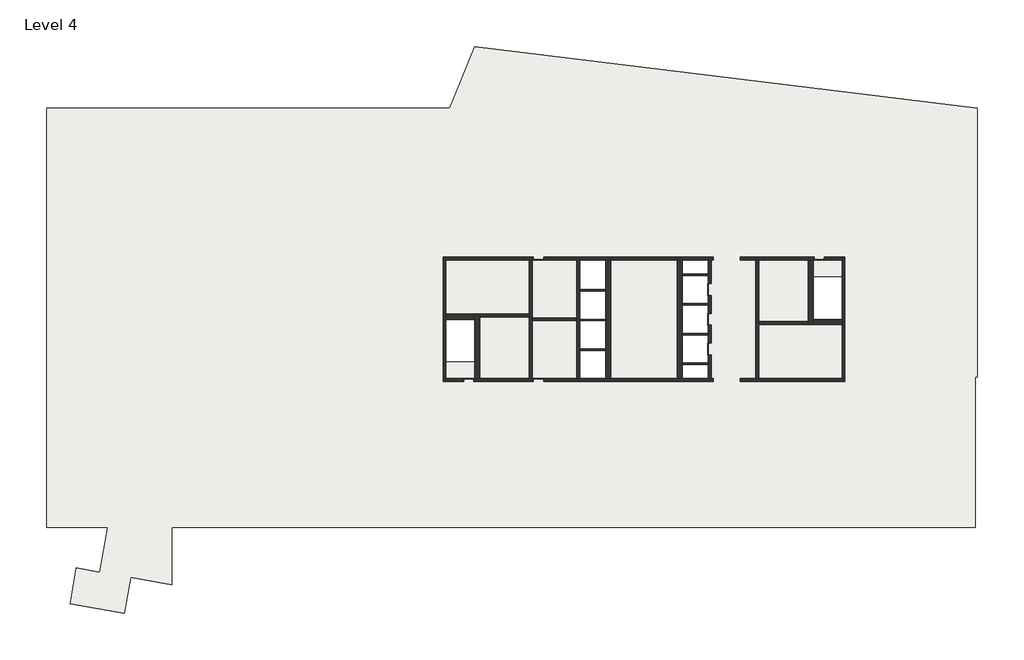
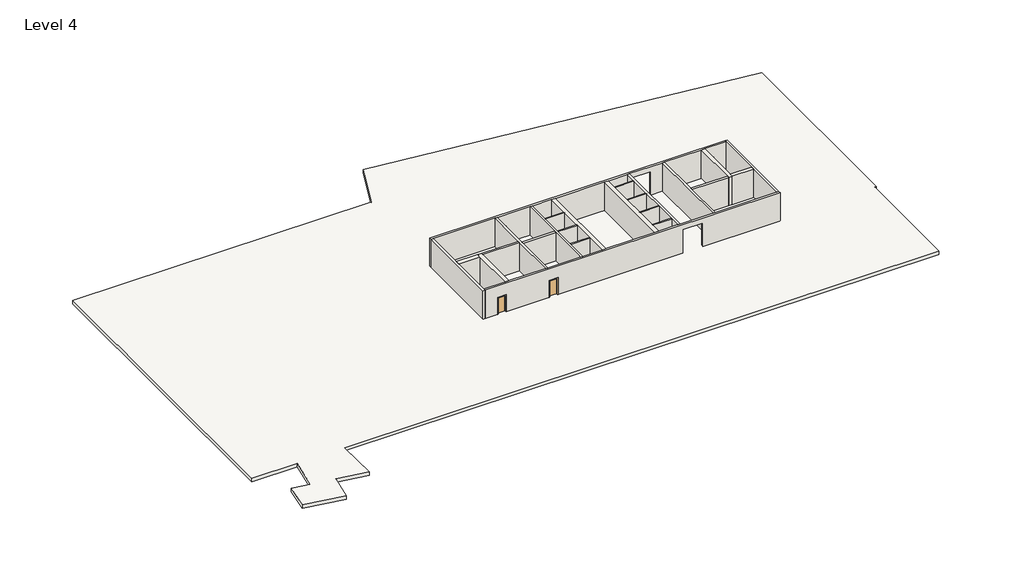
# One storey: 24 walls, 4 doors, 3 proxies, 1 slab.
"""IFC4 building model written with IfcOpenShell, lengths in millimetres."""

from ifc_helpers import new_model, si_unit, frame, origin, place, context, project, spatial, polyline, outline, extrude, faceted_brep, transform, mapped, element, save
from components import proxy_7fed659c, door_ec010f1f, door_9d8f1ff2

model = new_model("IFC4")

# Units and contexts
model_context = context("Model", 3, world=origin())
ifc_project = project(units=[si_unit("LENGTHUNIT", "METRE", prefix="MILLI")], contexts=[model_context])

# Site, building, storey
site = spatial("IfcSite", under=ifc_project)
building = spatial("IfcBuilding", under=site)
storey = spatial("IfcBuildingStorey", under=building, Name="Level 4", Elevation=10972.8)

# Proxies
placement = place(None, origin())
proxy_shape = proxy_7fed659c(model_context)
element("IfcBuildingElementProxy", 1, Name="Elevator%20Door-Center[1] : 42\" x 84\"", ObjectType="Elevator%20Door-Center[1] : 42\" x 84\"", at=placement, inside=storey, context=model_context, shape_type="MappedRepresentation", body=[
    mapped(proxy_shape, transform((-9030.2427926, -6266.0747049, 10972.8), x_axis=(0.0, 1.0, 0.0), y_axis=(-1.0, 0.0, 0.0), z_axis=(0.0, 0.0, 1.0))),
])
element("IfcBuildingElementProxy", 2, Name="Elevator%20Door-Center[1] : 42\" x 84\"", ObjectType="Elevator%20Door-Center[1] : 42\" x 84\"", at=placement, inside=storey, context=model_context, shape_type="MappedRepresentation", body=[
    mapped(proxy_shape, transform((-9030.2427926, -8933.0747049, 10972.8), x_axis=(0.0, 1.0, 0.0), y_axis=(-1.0, 0.0, 0.0), z_axis=(0.0, 0.0, 1.0))),
])
element("IfcBuildingElementProxy", 3, Name="Elevator%20Door-Center[1] : 42\" x 84\"", ObjectType="Elevator%20Door-Center[1] : 42\" x 84\"", at=placement, inside=storey, context=model_context, shape_type="MappedRepresentation", body=[
    mapped(proxy_shape, transform((-9030.2427926, -11600.0747049, 10972.8), x_axis=(0.0, 1.0, 0.0), y_axis=(-1.0, 0.0, 0.0), z_axis=(0.0, 0.0, 1.0))),
])

# Doors
door_shape = door_ec010f1f(model_context)
element("IfcDoor", 4, ObjectType="Single-Flush : 36\" x 84\"", at=placement, inside=storey, context=model_context, shape_type="MappedRepresentation", body=[
    mapped(door_shape, transform((-30700.0713641, -14493.2103492, 10972.8), x_axis=(1.0, 0.0, 0.0), y_axis=(0.0, 1.0, 0.0), z_axis=(0.0, 0.0, 1.0))),
])
element("IfcDoor", 5, ObjectType="Single-Flush : 36\" x 84\"", at=placement, inside=storey, context=model_context, shape_type="MappedRepresentation", body=[
    mapped(door_shape, transform((817.7000645, -3571.2103492, 10972.8), x_axis=(-1.0, 0.0, 0.0), y_axis=(0.0, -1.0, 0.0), z_axis=(0.0, 0.0, 1.0))),
])
element("IfcDoor", 6, ObjectType="Single-Flush : 36\" x 84\"", at=placement, inside=storey, context=model_context, shape_type="MappedRepresentation", body=[
    mapped(door_shape, transform((-24433.5285069, -3571.2103492, 10972.8), x_axis=(-1.0, 0.0, 0.0), y_axis=(0.0, -1.0, 0.0), z_axis=(0.0, 0.0, 1.0))),
])
door_2_shape = door_9d8f1ff2(model_context)
element("IfcDoor", 7, ObjectType="Single-Flush : 36\" x 84\"", at=placement, inside=storey, context=model_context, shape_type="MappedRepresentation", body=[
    mapped(door_2_shape, transform((-24433.5285069, -14493.2103492, 10972.8), x_axis=(-1.0, 0.0, 0.0), y_axis=(0.0, -1.0, 0.0), z_axis=(0.0, 0.0, 1.0))),
])

# Slab
element("IfcSlab", 8, ObjectType="Steel Bar Joist 14\" - Concrete", at=placement, inside=storey, context=model_context, shape_type="SweptSolid", body=[
    extrude(outline(polyline([(-68660.7599961, -27742.4853492), (-68660.7599961, 9954.2896508), (-32421.4843139, 9954.2896508), (-30175.817983, 15512.5088637), (15043.3054088, 9960.2986536), (15043.3054088, -14218.4266737), (14830.5804088, -14218.4266737), (14830.5804088, -27735.220667), (-57415.8125003, -27735.220667), (-57415.8125003, -32919.911766), (-61087.9334678, -32272.417763), (-61658.0117526, -35505.4923758), (-66551.3983764, -34642.656287), (-65981.3200915, -31409.5816742), (-63880.1342697, -31780.0774261), (-63168.1978494, -27742.4853492), (-68660.7599961, -27742.4853492)]), holes=[polyline([(-32750.2142212, -9032.2103492), (-32750.2142212, -12842.2103492), (-30166.6713641, -12842.2103492), (-30166.6713641, -9032.2103492), (-32750.2142212, -9032.2103492)]), polyline([(-20725.1285069, -3698.2103492), (-20725.1285069, -14366.2103492), (-18385.1284437, -14366.2103492), (-18385.1284437, -3698.2103492), (-20725.1285069, -3698.2103492)]), polyline([(-9157.2427926, -3698.2103492), (-11497.2428559, -3698.2103492), (-11497.2428559, -14366.2103492), (-9157.2427926, -14366.2103492), (-9157.2427926, -3698.2103492)]), polyline([(2867.8429217, -9032.2103492), (2867.8429217, -5222.2103492), (284.3000645, -5222.2103492), (284.3000645, -9032.2103492), (2867.8429217, -9032.2103492)])]), frame((0.0, 0.0, 10537.825), z_axis=(0.0, 0.0, 1.0), x_axis=(1.0, 0.0, 0.0)), (0.0, 0.0, 1.0), 434.975),
])

# Walls
element("IfcWall", 9, ObjectType="Core-shaft 10\" Concrete", at=placement, inside=storey, context=model_context, shape_type="Brep", body=[
    faceted_brep([(-24890.7285069, -14366.2103492, 13106.4), (-24890.7285069, -14366.2103492, 10972.8), (-24992.3285069, -14366.2103492, 10972.8), (-25246.3285069, -14366.2103492, 10972.8), (-29709.4713641, -14366.2103492, 10972.8), (-30166.6713641, -14366.2103492, 10972.8), (-30242.8713641, -14366.2103492, 10972.8), (-30242.8713641, -14366.2103492, 13106.4), (-31157.2713641, -14366.2103492, 13106.4), (-31157.2713641, -14366.2103492, 10972.8), (-32750.2142212, -14366.2103492, 10972.8), (-32750.2142212, -14366.2103492, 14630.4), (-30166.6713641, -14366.2103492, 14630.4), (-29709.4713641, -14366.2103492, 14630.4), (-25246.3285069, -14366.2103492, 14630.4), (-24992.3285069, -14366.2103492, 14630.4), (-20979.1285069, -14366.2103492, 14630.4), (-20725.1285069, -14366.2103492, 14630.4), (-18385.1284437, -14366.2103492, 14630.4), (-17927.9284437, -14366.2103492, 14630.4), (-11954.4428559, -14366.2103492, 14630.4), (-11497.2428559, -14366.2103492, 14630.4), (-9157.2427926, -14366.2103492, 14630.4), (-8903.2427926, -14366.2103492, 14630.4), (-4890.0427926, -14366.2103492, 14630.4), (-4636.0427926, -14366.2103492, 14630.4), (2867.8429217, -14366.2103492, 14630.4), (3121.8429217, -14366.2103492, 14630.4), (3121.8429217, -14366.2103492, 10972.8), (2867.8429217, -14366.2103492, 10972.8), (-4636.0427926, -14366.2103492, 10972.8), (-4890.0427926, -14366.2103492, 10972.8), (-6276.1570783, -14366.2103492, 10972.8), (-6276.1570783, -14366.2103492, 14020.8), (-8714.5570783, -14366.2103492, 14020.8), (-8714.5570783, -14366.2103492, 10972.8), (-8903.2427926, -14366.2103492, 10972.8), (-9157.2427926, -14366.2103492, 10972.8), (-11497.2428559, -14366.2103492, 10972.8), (-11954.4428559, -14366.2103492, 10972.8), (-17927.9284437, -14366.2103492, 10972.8), (-18385.1284437, -14366.2103492, 10972.8), (-20725.1285069, -14366.2103492, 10972.8), (-20979.1285069, -14366.2103492, 10972.8), (-23976.3285069, -14366.2103492, 10972.8), (-23976.3285069, -14366.2103492, 13106.4), (-30242.8713641, -14620.2103492, 10972.8), (-24890.7285069, -14620.2103492, 10972.8), (-24890.7285069, -14620.2103492, 13106.4), (-23976.3285069, -14620.2103492, 13106.4), (-23976.3285069, -14620.2103492, 10972.8), (-8714.5570783, -14620.2103492, 10972.8), (-8714.5570783, -14620.2103492, 14020.8), (-6276.1570783, -14620.2103492, 14020.8), (-6276.1570783, -14620.2103492, 10972.8), (3121.8429217, -14620.2103492, 10972.8), (3121.8429217, -14620.2103492, 14630.4), (-32750.2142212, -14620.2103492, 14630.4), (-32750.2142212, -14620.2103492, 10972.8), (-31157.2713641, -14620.2103492, 10972.8), (-31157.2713641, -14620.2103492, 13106.4), (-30242.8713641, -14620.2103492, 13106.4)], [[[0, 1, 2, 3, 4, 5, 6, 7, 8, 9, 10, 11, 12, 13, 14, 15, 16, 17, 18, 19, 20, 21, 22, 23, 24, 25, 26, 27, 28, 29, 30, 31, 32, 33, 34, 35, 36, 37, 38, 39, 40, 41, 42, 43, 44, 45]], [[46, 47, 48, 49, 50, 51, 52, 53, 54, 55, 56, 57, 58, 59, 60, 61]], [[28, 55, 54, 32, 31, 30, 29]], [[59, 58, 10, 9]], [[44, 43, 42, 41, 40, 39, 38, 37, 36, 35, 51, 50]], [[6, 5, 4, 3, 2, 1, 47, 46]], [[27, 26, 25, 24, 23, 22, 21, 20, 19, 18, 17, 16, 15, 14, 13, 12, 11, 57, 56]], [[7, 6, 46, 61]], [[8, 7, 61, 60]], [[9, 8, 60, 59]], [[33, 53, 52, 34]], [[53, 33, 32, 54]], [[34, 52, 51, 35]], [[28, 27, 56, 55]], [[11, 10, 58, 57]], [[48, 47, 1, 0]], [[49, 48, 0, 45]], [[50, 49, 45, 44]]]),
])
element("IfcWall", 10, ObjectType="Core-shaft 10\" Concrete", at=placement, inside=storey, context=model_context, shape_type="Brep", body=[
    faceted_brep([(2867.8429217, -3444.2103492, 10972.8), (2867.8429217, -3698.2103492, 10972.8), (2867.8429217, -9032.2103492, 10972.8), (2867.8429217, -9489.4103492, 10972.8), (2867.8429217, -14366.2103492, 10972.8), (2867.8429217, -14366.2103492, 14630.4), (2867.8429217, -9489.4103492, 14630.4), (2867.8429217, -9032.2103492, 14630.4), (2867.8429217, -3698.2103492, 14630.4), (2867.8429217, -3444.2103492, 14630.4), (3121.8429217, -3444.2103492, 10972.8), (3121.8429217, -3444.2103492, 14630.4), (3121.8429217, -14366.2103492, 14630.4), (3121.8429217, -14366.2103492, 10972.8)], [[[0, 1, 2, 3, 4, 5, 6, 7, 8, 9]], [[10, 11, 12, 13]], [[4, 3, 2, 1, 0, 10, 13]], [[9, 8, 7, 6, 5, 12, 11]], [[0, 9, 11, 10]], [[5, 4, 13, 12]]]),
])
element("IfcWall", 11, ObjectType="Core-shaft 10\" Concrete", at=placement, inside=storey, context=model_context, shape_type="Brep", body=[
    faceted_brep([(-33004.2142212, -3698.2103492, 10972.8), (-32750.2142212, -3698.2103492, 10972.8), (-25246.3285069, -3698.2103492, 10972.8), (-24992.3285069, -3698.2103492, 10972.8), (-24890.7285069, -3698.2103492, 10972.8), (-24890.7285069, -3698.2103492, 13106.4), (-23976.3285069, -3698.2103492, 13106.4), (-23976.3285069, -3698.2103492, 10972.8), (-20979.1285069, -3698.2103492, 10972.8), (-20725.1285069, -3698.2103492, 10972.8), (-18385.1284437, -3698.2103492, 10972.8), (-17927.9284437, -3698.2103492, 10972.8), (-11954.4428559, -3698.2103492, 10972.8), (-11497.2428559, -3698.2103492, 10972.8), (-9157.2427926, -3698.2103492, 10972.8), (-8903.2427926, -3698.2103492, 10972.8), (-8714.5570783, -3698.2103492, 10972.8), (-8714.5570783, -3698.2103492, 14020.8), (-6276.1570783, -3698.2103492, 14020.8), (-6276.1570783, -3698.2103492, 10972.8), (-4890.0427926, -3698.2103492, 10972.8), (-4636.0427926, -3698.2103492, 10972.8), (-172.8999355, -3698.2103492, 10972.8), (284.3000645, -3698.2103492, 10972.8), (360.5000645, -3698.2103492, 10972.8), (360.5000645, -3698.2103492, 13106.4), (1274.9000645, -3698.2103492, 13106.4), (1274.9000645, -3698.2103492, 10972.8), (2867.8429217, -3698.2103492, 10972.8), (2867.8429217, -3698.2103492, 14630.4), (284.3000645, -3698.2103492, 14630.4), (-172.8999355, -3698.2103492, 14630.4), (-4636.0427926, -3698.2103492, 14630.4), (-4890.0427926, -3698.2103492, 14630.4), (-8903.2427926, -3698.2103492, 14630.4), (-9157.2427926, -3698.2103492, 14630.4), (-11497.2428559, -3698.2103492, 14630.4), (-11954.4428559, -3698.2103492, 14630.4), (-17927.9284437, -3698.2103492, 14630.4), (-18385.1284437, -3698.2103492, 14630.4), (-20725.1285069, -3698.2103492, 14630.4), (-20979.1285069, -3698.2103492, 14630.4), (-24992.3285069, -3698.2103492, 14630.4), (-25246.3285069, -3698.2103492, 14630.4), (-32750.2142212, -3698.2103492, 14630.4), (-33004.2142212, -3698.2103492, 14630.4), (-24890.7285069, -3444.2103492, 13106.4), (-24890.7285069, -3444.2103492, 10972.8), (-33004.2142212, -3444.2103492, 10972.8), (-33004.2142212, -3444.2103492, 14630.4), (2867.8429217, -3444.2103492, 14630.4), (2867.8429217, -3444.2103492, 10972.8), (1274.9000645, -3444.2103492, 10972.8), (1274.9000645, -3444.2103492, 13106.4), (360.5000645, -3444.2103492, 13106.4), (360.5000645, -3444.2103492, 10972.8), (-6276.1570783, -3444.2103492, 10972.8), (-6276.1570783, -3444.2103492, 14020.8), (-8714.5570783, -3444.2103492, 14020.8), (-8714.5570783, -3444.2103492, 10972.8), (-23976.3285069, -3444.2103492, 10972.8), (-23976.3285069, -3444.2103492, 13106.4)], [[[0, 1, 2, 3, 4, 5, 6, 7, 8, 9, 10, 11, 12, 13, 14, 15, 16, 17, 18, 19, 20, 21, 22, 23, 24, 25, 26, 27, 28, 29, 30, 31, 32, 33, 34, 35, 36, 37, 38, 39, 40, 41, 42, 43, 44, 45]], [[46, 47, 48, 49, 50, 51, 52, 53, 54, 55, 56, 57, 58, 59, 60, 61]], [[52, 51, 28, 27]], [[56, 55, 24, 23, 22, 21, 20, 19]], [[60, 59, 16, 15, 14, 13, 12, 11, 10, 9, 8, 7]], [[48, 47, 4, 3, 2, 1, 0]], [[45, 44, 43, 42, 41, 40, 39, 38, 37, 36, 35, 34, 33, 32, 31, 30, 29, 50, 49]], [[17, 58, 57, 18]], [[58, 17, 16, 59]], [[18, 57, 56, 19]], [[25, 24, 55, 54]], [[26, 25, 54, 53]], [[27, 26, 53, 52]], [[0, 45, 49, 48]], [[29, 28, 51, 50]], [[5, 4, 47, 46]], [[6, 5, 46, 61]], [[7, 6, 61, 60]]]),
])
element("IfcWall", 12, ObjectType="Core-shaft 10\" Concrete", at=placement, inside=storey, context=model_context, shape_type="Brep", body=[
    faceted_brep([(-32750.2142212, -14620.2103492, 10972.8), (-32750.2142212, -14366.2103492, 10972.8), (-32750.2142212, -9032.2103492, 10972.8), (-32750.2142212, -8575.0103492, 10972.8), (-32750.2142212, -3698.2103492, 10972.8), (-32750.2142212, -3698.2103492, 14630.4), (-32750.2142212, -8575.0103492, 14630.4), (-32750.2142212, -9032.2103492, 14630.4), (-32750.2142212, -14366.2103492, 14630.4), (-32750.2142212, -14620.2103492, 14630.4), (-33004.2142212, -14620.2103492, 10972.8), (-33004.2142212, -14620.2103492, 14630.4), (-33004.2142212, -3698.2103492, 14630.4), (-33004.2142212, -3698.2103492, 10972.8)], [[[0, 1, 2, 3, 4, 5, 6, 7, 8, 9]], [[10, 11, 12, 13]], [[4, 3, 2, 1, 0, 10, 13]], [[9, 8, 7, 6, 5, 12, 11]], [[0, 9, 11, 10]], [[5, 4, 13, 12]]]),
])
element("IfcWall", 13, ObjectType="Core-shaft 10\" Concrete", at=placement, inside=storey, context=model_context, shape_type="SweptSolid", body=[
    extrude(outline(polyline([(-20725.1285069, -3698.2103492), (-20725.1285069, -14366.2103492), (-20979.1285069, -14366.2103492), (-20979.1285069, -3698.2103492), (-20725.1285069, -3698.2103492)])), frame((0.0, 0.0, 10972.8), z_axis=(0.0, 0.0, 1.0), x_axis=(1.0, 0.0, 0.0)), (0.0, 0.0, 1.0), 3657.6),
])
element("IfcWall", 14, ObjectType="Core-shaft 10\" Concrete", at=placement, inside=storey, context=model_context, shape_type="Brep", body=[
    faceted_brep([(-24992.3285069, -14366.2103492, 10972.8), (-24992.3285069, -3698.2103492, 10972.8), (-24992.3285069, -3698.2103492, 14630.4), (-24992.3285069, -14366.2103492, 14630.4), (-25246.3285069, -14366.2103492, 10972.8), (-25246.3285069, -14366.2103492, 14630.4), (-25246.3285069, -8829.0103492, 14630.4), (-25246.3285069, -8575.0103492, 14630.4), (-25246.3285069, -3698.2103492, 14630.4), (-25246.3285069, -3698.2103492, 10972.8), (-25246.3285069, -8575.0103492, 10972.8), (-25246.3285069, -8829.0103492, 10972.8)], [[[0, 1, 2, 3]], [[4, 5, 6, 7, 8, 9, 10, 11]], [[1, 0, 4, 11, 10, 9]], [[3, 2, 8, 7, 6, 5]], [[2, 1, 9, 8]], [[0, 3, 5, 4]]]),
])
element("IfcWall", 15, ObjectType="Core-shaft 10\" Concrete", at=placement, inside=storey, context=model_context, shape_type="SweptSolid", body=[
    extrude(outline(polyline([(-25246.3285069, -8829.0103492), (-29709.4713641, -8829.0103492), (-29709.4713641, -8575.0103492), (-25246.3285069, -8575.0103492), (-25246.3285069, -8829.0103492)])), frame((0.0, 0.0, 10972.8), z_axis=(0.0, 0.0, 1.0), x_axis=(1.0, 0.0, 0.0)), (0.0, 0.0, 1.0), 3657.6),
])
element("IfcWall", 16, ObjectType="Core-shaft 10\" Concrete", at=placement, inside=storey, context=model_context, shape_type="SweptSolid", body=[
    extrude(outline(polyline([(-14366.2103492, 14630.4), (-3698.2103492, 14630.4), (-3698.2103492, 10972.8), (-5825.4603492, 10972.8), (-5825.4603492, 13131.8), (-6904.9603492, 13131.8), (-6904.9603492, 10972.8), (-8492.4603492, 10972.8), (-8492.4603492, 13131.8), (-9571.9603492, 13131.8), (-9571.9603492, 10972.8), (-11159.4603492, 10972.8), (-11159.4603492, 13131.8), (-12238.9603492, 13131.8), (-12238.9603492, 10972.8), (-14366.2103492, 10972.8), (-14366.2103492, 14630.4)])), frame((-9157.2427926, 0.0, 0.0), z_axis=(1.0, 0.0, 0.0), x_axis=(0.0, 1.0, 0.0)), (0.0, 0.0, 1.0), 254.0),
])
element("IfcWall", 17, ObjectType="Core-shaft 10\" Concrete", at=placement, inside=storey, context=model_context, shape_type="Brep", body=[
    faceted_brep([(-4636.0427926, -14366.2103492, 10972.8), (-4636.0427926, -9489.4103492, 10972.8), (-4636.0427926, -9235.4103492, 10972.8), (-4636.0427926, -3698.2103492, 10972.8), (-4636.0427926, -3698.2103492, 14630.4), (-4636.0427926, -9235.4103492, 14630.4), (-4636.0427926, -9489.4103492, 14630.4), (-4636.0427926, -14366.2103492, 14630.4), (-4890.0427926, -14366.2103492, 10972.8), (-4890.0427926, -14366.2103492, 14630.4), (-4890.0427926, -3698.2103492, 14630.4), (-4890.0427926, -3698.2103492, 10972.8)], [[[0, 1, 2, 3, 4, 5, 6, 7]], [[8, 9, 10, 11]], [[3, 2, 1, 0, 8, 11]], [[7, 6, 5, 4, 10, 9]], [[4, 3, 11, 10]], [[0, 7, 9, 8]]]),
])
element("IfcWall", 18, ObjectType="Core-shaft 10\" Concrete", at=placement, inside=storey, context=model_context, shape_type="SweptSolid", body=[
    extrude(outline(polyline([(-4636.0427926, -9235.4103492), (-172.8999355, -9235.4103492), (-172.8999355, -9489.4103492), (-4636.0427926, -9489.4103492), (-4636.0427926, -9235.4103492)])), frame((0.0, 0.0, 10972.8), z_axis=(0.0, 0.0, 1.0), x_axis=(1.0, 0.0, 0.0)), (0.0, 0.0, 1.0), 3657.6),
])
element("IfcWall", 19, ObjectType="Core-shaft 10\" Concrete", at=placement, inside=storey, context=model_context, shape_type="SweptSolid", body=[
    extrude(outline(polyline([(-20979.1285069, -9159.2103492), (-24992.3285069, -9159.2103492), (-24992.3285069, -8905.2103492), (-20979.1285069, -8905.2103492), (-20979.1285069, -9159.2103492)])), frame((0.0, 0.0, 10972.8), z_axis=(0.0, 0.0, 1.0), x_axis=(1.0, 0.0, 0.0)), (0.0, 0.0, 1.0), 3657.6),
])
element("IfcWall", 20, ObjectType="Core-shaft 18\" Concrete", at=placement, inside=storey, context=model_context, shape_type="SweptSolid", body=[
    extrude(outline(polyline([(-18385.1284437, -14366.2103492), (-18385.1284437, -3698.2103492), (-17927.9284437, -3698.2103492), (-17927.9284437, -14366.2103492), (-18385.1284437, -14366.2103492)])), frame((0.0, 0.0, 10972.8), z_axis=(0.0, 0.0, 1.0), x_axis=(1.0, 0.0, 0.0)), (0.0, 0.0, 1.0), 3657.6),
])
element("IfcWall", 21, ObjectType="Core-shaft 18\" Concrete", at=placement, inside=storey, context=model_context, shape_type="Brep", body=[
    faceted_brep([(-29709.4713641, -14366.2103492, 10972.8), (-29709.4713641, -8829.0103492, 10972.8), (-29709.4713641, -8575.0103492, 10972.8), (-29709.4713641, -8575.0103492, 14630.4), (-29709.4713641, -8829.0103492, 14630.4), (-29709.4713641, -14366.2103492, 14630.4), (-30166.6713641, -14366.2103492, 10972.8), (-30166.6713641, -14366.2103492, 14630.4), (-30166.6713641, -9032.2103492, 14630.4), (-30166.6713641, -8575.0103492, 14630.4), (-30166.6713641, -8575.0103492, 10972.8), (-30166.6713641, -9032.2103492, 10972.8)], [[[0, 1, 2, 3, 4, 5]], [[6, 7, 8, 9, 10, 11]], [[2, 1, 0, 6, 11, 10]], [[5, 4, 3, 9, 8, 7]], [[3, 2, 10, 9]], [[0, 5, 7, 6]]]),
])
element("IfcWall", 22, ObjectType="Core-shaft 18\" Concrete", at=placement, inside=storey, context=model_context, shape_type="SweptSolid", body=[
    extrude(outline(polyline([(-32750.2142212, -8575.0103492), (-30166.6713641, -8575.0103492), (-30166.6713641, -9032.2103492), (-32750.2142212, -9032.2103492), (-32750.2142212, -8575.0103492)])), frame((0.0, 0.0, 10972.8), z_axis=(0.0, 0.0, 1.0), x_axis=(1.0, 0.0, 0.0)), (0.0, 0.0, 1.0), 3657.6),
])
element("IfcWall", 23, ObjectType="Core-shaft 18\" Concrete", at=placement, inside=storey, context=model_context, shape_type="SweptSolid", body=[
    extrude(outline(polyline([(-11954.4428559, -14366.2103492), (-11954.4428559, -3698.2103492), (-11497.2428559, -3698.2103492), (-11497.2428559, -14366.2103492), (-11954.4428559, -14366.2103492)])), frame((0.0, 0.0, 10972.8), z_axis=(0.0, 0.0, 1.0), x_axis=(1.0, 0.0, 0.0)), (0.0, 0.0, 1.0), 3657.6),
])
element("IfcWall", 24, ObjectType="Core-shaft 18\" Concrete", at=placement, inside=storey, context=model_context, shape_type="Brep", body=[
    faceted_brep([(-172.8999355, -3698.2103492, 10972.8), (-172.8999355, -9235.4103492, 10972.8), (-172.8999355, -9489.4103492, 10972.8), (-172.8999355, -9489.4103492, 14630.4), (-172.8999355, -9235.4103492, 14630.4), (-172.8999355, -3698.2103492, 14630.4), (284.3000645, -3698.2103492, 10972.8), (284.3000645, -3698.2103492, 14630.4), (284.3000645, -9032.2103492, 14630.4), (284.3000645, -9489.4103492, 14630.4), (284.3000645, -9489.4103492, 10972.8), (284.3000645, -9032.2103492, 10972.8)], [[[0, 1, 2, 3, 4, 5]], [[6, 7, 8, 9, 10, 11]], [[2, 1, 0, 6, 11, 10]], [[5, 4, 3, 9, 8, 7]], [[3, 2, 10, 9]], [[0, 5, 7, 6]]]),
])
element("IfcWall", 25, ObjectType="Core-shaft 18\" Concrete", at=placement, inside=storey, context=model_context, shape_type="SweptSolid", body=[
    extrude(outline(polyline([(2867.8429217, -9489.4103492), (284.3000645, -9489.4103492), (284.3000645, -9032.2103492), (2867.8429217, -9032.2103492), (2867.8429217, -9489.4103492)])), frame((0.0, 0.0, 10972.8), z_axis=(0.0, 0.0, 1.0), x_axis=(1.0, 0.0, 0.0)), (0.0, 0.0, 1.0), 3657.6),
])
element("IfcWall", 26, ObjectType="Generic - 5\"", at=placement, inside=storey, context=model_context, shape_type="SweptSolid", body=[
    extrude(outline(polyline([(-18385.1284437, -11826.2103492), (-20725.1285069, -11826.2103492), (-20725.1285069, -11699.2103492), (-18385.1284437, -11699.2103492), (-18385.1284437, -11826.2103492)])), frame((0.0, 0.0, 10972.8), z_axis=(0.0, 0.0, 1.0), x_axis=(1.0, 0.0, 0.0)), (0.0, 0.0, 1.0), 3657.6),
])
element("IfcWall", 27, ObjectType="Generic - 5\"", at=placement, inside=storey, context=model_context, shape_type="SweptSolid", body=[
    extrude(outline(polyline([(-18385.1284437, -9159.2103492), (-20725.1285069, -9159.2103492), (-20725.1285069, -9032.2103492), (-18385.1284437, -9032.2103492), (-18385.1284437, -9159.2103492)])), frame((0.0, 0.0, 10972.8), z_axis=(0.0, 0.0, 1.0), x_axis=(1.0, 0.0, 0.0)), (0.0, 0.0, 1.0), 3657.6),
])
element("IfcWall", 28, ObjectType="Generic - 5\"", at=placement, inside=storey, context=model_context, shape_type="SweptSolid", body=[
    extrude(outline(polyline([(-18385.1284437, -6492.2103492), (-20725.1285069, -6492.2103492), (-20725.1285069, -6365.2103492), (-18385.1284437, -6365.2103492), (-18385.1284437, -6492.2103492)])), frame((0.0, 0.0, 10972.8), z_axis=(0.0, 0.0, 1.0), x_axis=(1.0, 0.0, 0.0)), (0.0, 0.0, 1.0), 3657.6),
])
element("IfcWall", 29, ObjectType="Generic - 5\"", at=placement, inside=storey, context=model_context, shape_type="SweptSolid", body=[
    extrude(outline(polyline([(-11497.2428559, -10302.2103492), (-9157.2427926, -10302.2103492), (-9157.2427926, -10429.2103492), (-11497.2428559, -10429.2103492), (-11497.2428559, -10302.2103492)])), frame((0.0, 0.0, 10972.8), z_axis=(0.0, 0.0, 1.0), x_axis=(1.0, 0.0, 0.0)), (0.0, 0.0, 1.0), 3657.6),
])
element("IfcWall", 30, ObjectType="Generic - 5\"", at=placement, inside=storey, context=model_context, shape_type="SweptSolid", body=[
    extrude(outline(polyline([(-11497.2428559, -7635.2103492), (-9157.2427926, -7635.2103492), (-9157.2427926, -7762.2103492), (-11497.2428559, -7762.2103492), (-11497.2428559, -7635.2103492)])), frame((0.0, 0.0, 10972.8), z_axis=(0.0, 0.0, 1.0), x_axis=(1.0, 0.0, 0.0)), (0.0, 0.0, 1.0), 3657.6),
])
element("IfcWall", 31, ObjectType="Generic - 5\"", at=placement, inside=storey, context=model_context, shape_type="SweptSolid", body=[
    extrude(outline(polyline([(-11497.2428559, -4968.2103492), (-9157.2427926, -4968.2103492), (-9157.2427926, -5095.2103492), (-11497.2428559, -5095.2103492), (-11497.2428559, -4968.2103492)])), frame((0.0, 0.0, 10972.8), z_axis=(0.0, 0.0, 1.0), x_axis=(1.0, 0.0, 0.0)), (0.0, 0.0, 1.0), 3657.6),
])
element("IfcWall", 32, ObjectType="Generic - 5\"", at=placement, inside=storey, context=model_context, shape_type="SweptSolid", body=[
    extrude(outline(polyline([(-11497.2428559, -12969.2103492), (-9157.2427926, -12969.2103492), (-9157.2427926, -13096.2103492), (-11497.2428559, -13096.2103492), (-11497.2428559, -12969.2103492)])), frame((0.0, 0.0, 10972.8), z_axis=(0.0, 0.0, 1.0), x_axis=(1.0, 0.0, 0.0)), (0.0, 0.0, 1.0), 3657.6),
])

save(model, "model.ifc")
